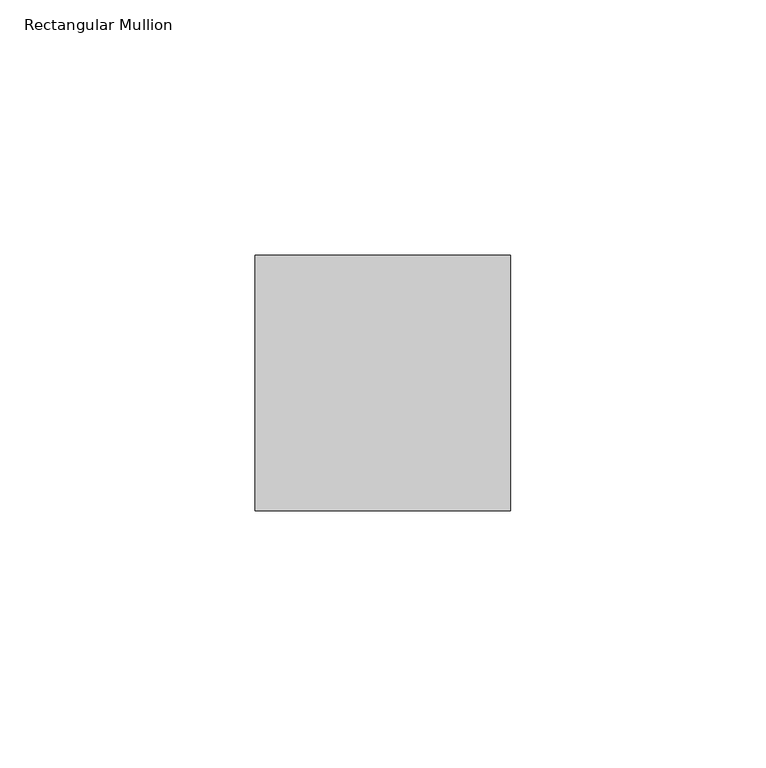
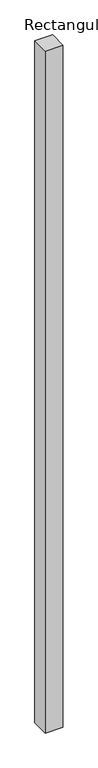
"""IFC4 building model written with IfcOpenShell, lengths in millimetres: member geometry, Rectangular Mullion : Mullion_Curtain Wall_Generic Showcase_50x50mm."""

import ifcopenshell
import ifcopenshell.guid

model = None  # the IFC model being written
_history = None  # IfcOwnerHistory: only IFC2X3 demands one
_inside = {}  # id of a spatial element -> (the spatial element, [elements in it])
_under = {}  # id of a project, library or spatial element -> (it, [spatial elements below it])
_declared = {}  # id of a project -> (the project, [libraries it declares])
_typed = {}  # id of a type object -> (the type object, [elements of that type])
_made_of = {}  # id of a material, layer set ... -> (it, [elements and type objects made of it])


def new_model(schema):
    """Start an empty IFC model of exactly this schema.

    Asked for "IFC4X3", IfcOpenShell would pick the latest addendum, in which some entities
    have other attributes; the version numbers below select the first issue.
    IFC2X3 requires an IfcOwnerHistory on every rooted entity: one is made here for all.
    """
    global model, _history
    if schema == "IFC4X3":
        model = ifcopenshell.file(schema_version=(4, 3, 0, 0))
    else:
        model = ifcopenshell.file(schema=schema)
    _inside.clear()
    _under.clear()
    _declared.clear()
    _typed.clear()
    _made_of.clear()
    _history = None
    if model.schema == "IFC2X3":
        org = make("IfcOrganization", Name="unknown")
        user = make(
            "IfcPersonAndOrganization",
            ThePerson=make("IfcPerson", FamilyName="unknown"),
            TheOrganization=org,
        )
        app = make(
            "IfcApplication",
            ApplicationDeveloper=org,
            Version="unknown",
            ApplicationFullName="unknown",
            ApplicationIdentifier="unknown",
        )
        _history = make(
            "IfcOwnerHistory",
            OwningUser=user,
            OwningApplication=app,
            ChangeAction="ADDED",
            CreationDate=0,
        )
    return model


def make(cls, **values):
    """One entity of the class cls with the attributes given. An attribute that is None is left unset."""
    return model.create_entity(
        cls, **{name: value for name, value in values.items() if value is not None}
    )


def rooted(cls, **values):
    """An entity with a GlobalId (a new one), such as an element, a storey or a relation."""
    return make(cls, GlobalId=ifcopenshell.guid.new(), OwnerHistory=_history, **values)


def si_unit(unit_type, name, prefix=None):
    """IfcSIUnit, for example si_unit("LENGTHUNIT", "METRE", prefix="MILLI")."""
    return make("IfcSIUnit", UnitType=unit_type, Prefix=prefix, Name=name)


def assignment(units):
    """IfcUnitAssignment: the units of a project."""
    return None if units is None else make("IfcUnitAssignment", Units=units)


def point(xyz):
    """IfcCartesianPoint."""
    return None if xyz is None else make("IfcCartesianPoint", Coordinates=xyz)


def direction(xyz):
    """IfcDirection."""
    return None if xyz is None else make("IfcDirection", DirectionRatios=xyz)


def frame(location, z_axis=None, x_axis=None):
    """IfcAxis2Placement3D, a coordinate frame: its origin and axes. An axis left out is left unset."""
    return make(
        "IfcAxis2Placement3D",
        Location=point(location),
        Axis=direction(z_axis),
        RefDirection=direction(x_axis),
    )


def origin():
    """The frame at (0, 0, 0) with its axes left unset."""
    return frame((0.0, 0.0, 0.0))


def place(relative_to, where):
    """IfcLocalPlacement: puts the frame where relative to a parent placement (None: the world)."""
    return make(
        "IfcLocalPlacement", PlacementRelTo=relative_to, RelativePlacement=where
    )


def context(
    kind, dimensions, precision=None, world=None, true_north=None, identifier=None
):
    """IfcGeometricRepresentationContext, for example the 3D "Model" context."""
    return make(
        "IfcGeometricRepresentationContext",
        ContextIdentifier=identifier,
        ContextType=kind,
        CoordinateSpaceDimension=dimensions,
        Precision=precision,
        WorldCoordinateSystem=world,
        TrueNorth=true_north,
    )


def project(units=None, contexts=None):
    """IfcProject with its units and contexts."""
    return rooted(
        "IfcProject",
        Name="project",
        RepresentationContexts=contexts,
        UnitsInContext=assignment(units),
    )


def spatial(cls, under=None, at=None, **own):
    """A site, building, storey or space (cls), placed at a placement, below another one or the project."""
    s = rooted(cls, ObjectPlacement=at, **own)
    if under is not None:
        _under.setdefault(under.id(), (under, []))[1].append(s)
    return s


def polyline(points):
    """IfcPolyline through the points."""
    return make("IfcPolyline", Points=[point(p) for p in points])


def outline(outer, holes=None, kind="AREA"):
    """IfcArbitraryClosedProfileDef: a profile drawn as a closed curve; with holes, ...WithVoids."""
    if holes is None:
        return make("IfcArbitraryClosedProfileDef", ProfileType=kind, OuterCurve=outer)
    return make(
        "IfcArbitraryProfileDefWithVoids",
        ProfileType=kind,
        OuterCurve=outer,
        InnerCurves=holes,
    )


def extrude(swept, where, along, depth):
    """IfcExtrudedAreaSolid: the profile swept, set in the frame where, extruded along a direction by depth."""
    return make(
        "IfcExtrudedAreaSolid",
        SweptArea=swept,
        Position=where,
        ExtrudedDirection=direction(along),
        Depth=depth,
    )


def shape(context_of_items, identifier, shape_type, items):
    """IfcShapeRepresentation: the items that make up one representation, for example the "Body"."""
    return make(
        "IfcShapeRepresentation",
        ContextOfItems=context_of_items,
        RepresentationIdentifier=identifier,
        RepresentationType=shape_type,
        Items=items,
    )


def source(mapping_origin, context_of_items, identifier, shape_type, items):
    """IfcRepresentationMap: a shape defined once, which mapped items show again and again."""
    return make(
        "IfcRepresentationMap",
        MappingOrigin=mapping_origin,
        MappedRepresentation=shape(context_of_items, identifier, shape_type, items),
    )


def transform(
    local_origin,
    x_axis=None,
    y_axis=None,
    z_axis=None,
    scale=None,
    scale2=None,
    scale3=None,
    uniform=True,
):
    """IfcCartesianTransformationOperator3D, or its non-uniform kind. x_axis, y_axis, z_axis: its Axis1, 2, 3."""
    if uniform:
        return make(
            "IfcCartesianTransformationOperator3D",
            Axis1=direction(x_axis),
            Axis2=direction(y_axis),
            LocalOrigin=point(local_origin),
            Scale=scale,
            Axis3=direction(z_axis),
        )
    return make(
        "IfcCartesianTransformationOperator3DnonUniform",
        Axis1=direction(x_axis),
        Axis2=direction(y_axis),
        LocalOrigin=point(local_origin),
        Scale=scale,
        Axis3=direction(z_axis),
        Scale2=scale2,
        Scale3=scale3,
    )


def mapped(mapping_source, mapping_target):
    """IfcMappedItem: shows the shape of a source again, moved by a transform."""
    return make(
        "IfcMappedItem", MappingSource=mapping_source, MappingTarget=mapping_target
    )


def made_of(thing, what):
    """Note that an element or type object is made of a material, layer set ...; save() writes the relation."""
    if what is not None:
        _made_of.setdefault(what.id(), (what, []))[1].append(thing)
    return thing


def element(
    cls,
    number,
    at=None,
    inside=None,
    cuts=None,
    type_object=None,
    material=None,
    context=None,
    identifier="Body",
    shape_type=None,
    held_by="IfcProductDefinitionShape",
    body=None,
    shapes=None,
    **own,
):
    """One element of the class cls, such as IfcWall. Its Tag is "e" and its number.

    at: its placement. inside: the storey or other place that contains it. cuts: it is an
    opening in that element (IfcRelVoidsElement). A single representation is given by context,
    identifier, shape_type and body (its items); several are given by shapes. held_by: the class
    of the entity that holds the representations. save() writes the other relations.
    """
    e = rooted(cls, Tag="e%d" % number, ObjectPlacement=at, **own)
    if body is not None:
        shapes = [shape(context, identifier, shape_type, body)]
    if shapes is not None:
        e.Representation = make(held_by, Representations=shapes)
    if inside is not None:
        _inside.setdefault(inside.id(), (inside, []))[1].append(e)
    if cuts is not None:
        rooted(
            "IfcRelVoidsElement", RelatingBuildingElement=cuts, RelatedOpeningElement=e
        )
    if type_object is not None:
        _typed.setdefault(type_object.id(), (type_object, []))[1].append(e)
    return made_of(e, material)


def aggregate(whole, parts):
    """IfcRelAggregates: a whole, such as a stair, and the parts it consists of."""
    return rooted("IfcRelAggregates", RelatingObject=whole, RelatedObjects=parts)


def save(model, path):
    """Write the relations noted so far, then the file.

    IfcRelAggregates (storeys below a building ...), IfcRelContainedInSpatialStructure (elements
    in a storey), IfcRelDefinesByType, IfcRelAssociatesMaterial and IfcRelDeclares: one each for
    every whole, place, type object, material and project.
    """
    for whole, parts in _under.values():
        aggregate(whole, parts)
    for where, things in _inside.values():
        rooted(
            "IfcRelContainedInSpatialStructure",
            RelatedElements=things,
            RelatingStructure=where,
        )
    for kind, things in _typed.values():
        rooted("IfcRelDefinesByType", RelatedObjects=things, RelatingType=kind)
    for what, things in _made_of.values():
        rooted("IfcRelAssociatesMaterial", RelatedObjects=things, RelatingMaterial=what)
    for by, libraries in _declared.values():
        rooted("IfcRelDeclares", RelatingContext=by, RelatedDefinitions=libraries)
    model.write(path)


def rectangular_mullion_58775510(model_context):
    return source(origin(), model_context, "Body", "SweptSolid", [
        extrude(outline(polyline([(0.0, 0.0), (0.0, -50.0), (-50.0, -50.0), (-50.0, 0.0), (0.0, 0.0)])), frame((0.0, 0.0, -2025.0), z_axis=(0.0, 0.0, 1.0), x_axis=(1.0, 0.0, 0.0)), (0.0, 0.0, 1.0), 2025.0),
    ])


if __name__ == "__main__":
    model = new_model("IFC4")
    model_context = context("Model", 3, world=origin())
    ifc_project = project(units=[si_unit("LENGTHUNIT", "METRE", prefix="MILLI")], contexts=[model_context])
    site = spatial("IfcSite", under=ifc_project)
    building = spatial("IfcBuilding", under=site)
    placement = place(None, origin())
    rectangular_mullion_shape = rectangular_mullion_58775510(model_context)
    element("IfcMember", 1, ObjectType="Rectangular Mullion : Mullion_Curtain Wall_Generic Showcase_50x50mm", at=placement, inside=building, context=model_context, shape_type="MappedRepresentation", body=[
        mapped(rectangular_mullion_shape, transform((0.0, 0.0, 0.0), x_axis=(1.0, 0.0, 0.0), y_axis=(0.0, 1.0, 0.0), z_axis=(0.0, 0.0, 1.0))),
    ])
    save(model, "model.ifc")
